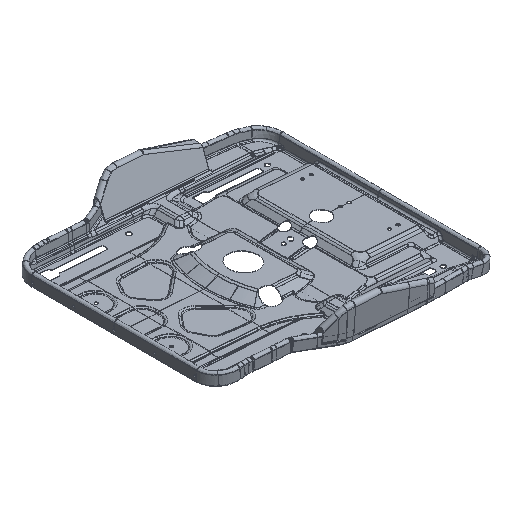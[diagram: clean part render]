
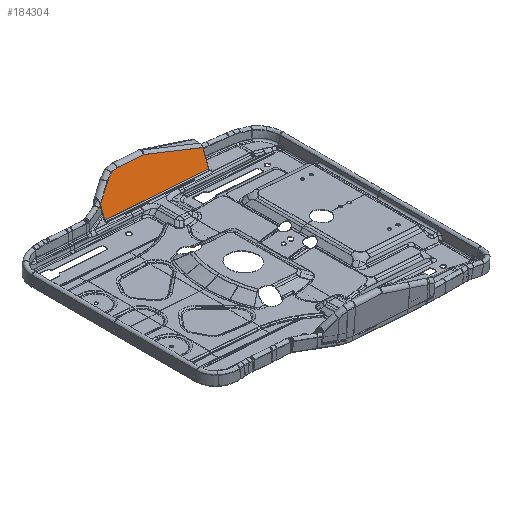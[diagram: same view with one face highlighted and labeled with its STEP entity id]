
A CAD part, isometric view. The second image highlights one B-rep face of the part: STEP entity #184304.
In plain terms, the highlighted planar face has unit normal (0.029, -0.906, 0.421).
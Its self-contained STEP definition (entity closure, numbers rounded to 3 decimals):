
#184076=VECTOR('Line Direction',#184075,1.) ;
#184231=VECTOR('Line Direction',#184230,1.) ;
#184270=VECTOR('Line Direction',#184269,1.) ;
#184277=VECTOR('Line Direction',#184276,1.) ;
#184284=VECTOR('Line Direction',#184283,1.) ;
#184291=VECTOR('Line Direction',#184290,1.) ;
#184075=DIRECTION('Vector Direction',(0.998,0.,-0.07)) ;
#184225=DIRECTION('Axis2P3D Direction',(0.029,-0.906,0.422)) ;
#184226=DIRECTION('Axis2P3D XDirection',(0.064,0.423,0.904)) ;
#184230=DIRECTION('Vector Direction',(0.945,-0.112,-0.307)) ;
#184269=DIRECTION('Vector Direction',(-0.725,-0.31,-0.615)) ;
#184276=DIRECTION('Vector Direction',(0.064,0.423,0.904)) ;
#184283=DIRECTION('Vector Direction',(-0.998,0.,0.07)) ;
#184290=DIRECTION('Vector Direction',(0.064,0.423,0.904)) ;
#184071=CARTESIAN_POINT('Vertex',(985.012,-514.491,427.642)) ;
#184074=CARTESIAN_POINT('Line Origine',(1044.212,-514.502,423.482)) ;
#184078=CARTESIAN_POINT('Vertex',(1030.8,-514.5,424.424)) ;
#184224=CARTESIAN_POINT('Axis2P3D Location',(975.894,-537.588,378.62)) ;
#184229=CARTESIAN_POINT('Line Origine',(1076.59,-519.941,409.527)) ;
#184233=CARTESIAN_POINT('Vertex',(1122.379,-525.381,394.63)) ;
#184237=CARTESIAN_POINT('Control Point',(974.542,-515.623,425.939)) ;
#184238=CARTESIAN_POINT('Control Point',(974.574,-515.617,425.951)) ;
#184239=CARTESIAN_POINT('Control Point',(974.606,-515.61,425.963)) ;
#184240=CARTESIAN_POINT('Control Point',(974.638,-515.603,425.976)) ;
#184241=CARTESIAN_POINT('Control Point',(976.595,-515.191,426.725)) ;
#184242=CARTESIAN_POINT('Control Point',(978.628,-514.859,427.297)) ;
#184243=CARTESIAN_POINT('Control Point',(980.688,-514.626,427.654)) ;
#184244=CARTESIAN_POINT('Control Point',(982.812,-514.501,427.774)) ;
#184245=CARTESIAN_POINT('Control Point',(984.922,-514.491,427.648)) ;
#184246=CARTESIAN_POINT('Control Point',(984.952,-514.491,427.646)) ;
#184247=CARTESIAN_POINT('Control Point',(984.982,-514.491,427.644)) ;
#184248=CARTESIAN_POINT('Control Point',(985.012,-514.491,427.642)) ;
#184249=CARTESIAN_POINT('Vertex',(974.542,-515.623,425.939)) ;
#184253=CARTESIAN_POINT('Control Point',(964.212,-518.92,419.572)) ;
#184254=CARTESIAN_POINT('Control Point',(964.217,-518.918,419.577)) ;
#184255=CARTESIAN_POINT('Control Point',(964.222,-518.916,419.581)) ;
#184256=CARTESIAN_POINT('Control Point',(964.226,-518.914,419.585)) ;
#184257=CARTESIAN_POINT('Control Point',(966.037,-518.137,421.127)) ;
#184258=CARTESIAN_POINT('Control Point',(967.951,-517.408,422.561)) ;
#184259=CARTESIAN_POINT('Control Point',(969.976,-516.738,423.86)) ;
#184260=CARTESIAN_POINT('Control Point',(972.146,-516.141,424.994)) ;
#184261=CARTESIAN_POINT('Control Point',(974.422,-515.649,425.891)) ;
#184262=CARTESIAN_POINT('Control Point',(974.484,-515.636,425.916)) ;
#184263=CARTESIAN_POINT('Control Point',(974.513,-515.63,425.927)) ;
#184264=CARTESIAN_POINT('Control Point',(974.542,-515.623,425.939)) ;
#184265=CARTESIAN_POINT('Vertex',(964.212,-518.92,419.572)) ;
#184268=CARTESIAN_POINT('Line Origine',(953.298,-523.585,410.305)) ;
#184272=CARTESIAN_POINT('Vertex',(942.385,-528.25,401.037)) ;
#184275=CARTESIAN_POINT('Line Origine',(941.72,-532.666,391.589)) ;
#184279=CARTESIAN_POINT('Vertex',(941.055,-537.082,382.141)) ;
#184282=CARTESIAN_POINT('Line Origine',(1030.836,-537.084,375.864)) ;
#184286=CARTESIAN_POINT('Vertex',(1120.617,-537.087,369.587)) ;
#184289=CARTESIAN_POINT('Line Origine',(1121.498,-531.234,382.108)) ;
#184227=AXIS2_PLACEMENT_3D('Plane Axis2P3D',#184224,#184225,#184226) ;
#184080=EDGE_CURVE('',#184072,#184079,#184077,.T.) ;
#184235=EDGE_CURVE('',#184234,#184079,#184232,.F.) ;
#184251=EDGE_CURVE('',#184250,#184072,#184236,.T.) ;
#184267=EDGE_CURVE('',#184266,#184250,#184252,.T.) ;
#184274=EDGE_CURVE('',#184273,#184266,#184271,.F.) ;
#184281=EDGE_CURVE('',#184280,#184273,#184278,.T.) ;
#184288=EDGE_CURVE('',#184280,#184287,#184285,.F.) ;
#184293=EDGE_CURVE('',#184287,#184234,#184292,.T.) ;
#184228=PLANE('Plane',#184227) ;
#184295=ORIENTED_EDGE('',*,*,#184235,.T.) ;
#184296=ORIENTED_EDGE('',*,*,#184080,.F.) ;
#184297=ORIENTED_EDGE('',*,*,#184251,.F.) ;
#184298=ORIENTED_EDGE('',*,*,#184267,.F.) ;
#184299=ORIENTED_EDGE('',*,*,#184274,.F.) ;
#184300=ORIENTED_EDGE('',*,*,#184281,.F.) ;
#184301=ORIENTED_EDGE('',*,*,#184288,.T.) ;
#184302=ORIENTED_EDGE('',*,*,#184293,.T.) ;
#184077=LINE('Line',#184074,#184076) ;
#184232=LINE('Line',#184229,#184231) ;
#184271=LINE('Line',#184268,#184270) ;
#184278=LINE('Line',#184275,#184277) ;
#184285=LINE('Line',#184282,#184284) ;
#184292=LINE('Line',#184289,#184291) ;
#184304=ADVANCED_FACE('SQX3000-6801101.1\\\X2\51E04F554F53\X0\.5',(#184303),#184228,.T.) ;
#184072=VERTEX_POINT('',#184071) ;
#184079=VERTEX_POINT('',#184078) ;
#184234=VERTEX_POINT('',#184233) ;
#184250=VERTEX_POINT('',#184249) ;
#184266=VERTEX_POINT('',#184265) ;
#184273=VERTEX_POINT('',#184272) ;
#184280=VERTEX_POINT('',#184279) ;
#184287=VERTEX_POINT('',#184286) ;
#184236=B_SPLINE_CURVE_WITH_KNOTS('',5,(#184237,#184238,#184239,#184240,#184241,#184242,#184243,#184244,#184245,#184246,#184247,#184248),.UNSPECIFIED.,.F.,.U.,(6,3,3,6),(47.048,47.305,62.775,62.999),.UNSPECIFIED.) ;
#184252=B_SPLINE_CURVE_WITH_KNOTS('',5,(#184253,#184254,#184255,#184256,#184257,#184258,#184259,#184260,#184261,#184262,#184263,#184264),.UNSPECIFIED.,.F.,.U.,(6,3,3,6),(104.234,104.283,122.423,122.659),.UNSPECIFIED.) ;
#184294=EDGE_LOOP('',(#184295,#184296,#184297,#184298,#184299,#184300,#184301,#184302)) ;
#184303=FACE_OUTER_BOUND('',#184294,.T.) ;
